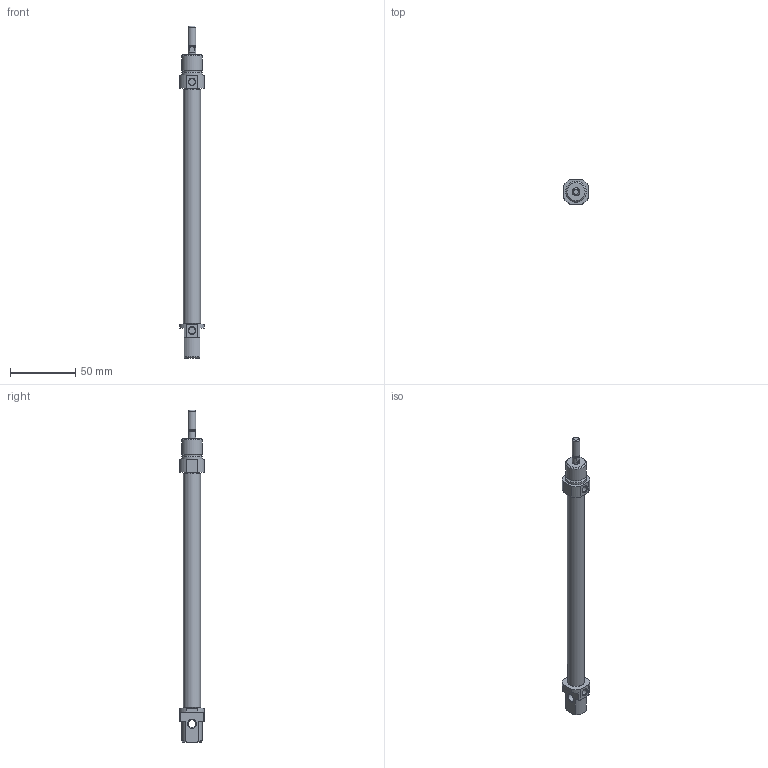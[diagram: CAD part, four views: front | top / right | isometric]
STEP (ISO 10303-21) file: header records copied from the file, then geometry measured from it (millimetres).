
FILE_DESCRIPTION((''),'2;1');
FILE_NAME('I:\3D電子目錄\氣缸\SDA\SDA12\SDA12\SDA12x150.stp','2007-08-06T10:28:02',('Administrator'),(''),'Autodesk Inventor 2008','Autodesk Inventor 2008','');
FILE_SCHEMA(('AUTOMOTIVE_DESIGN { 1 0 10303 214 1 1 1 1 }'));
Length unit declared in the file: millimetre
Products named in the file (1): SDA12X150
Bounding box: 19 x 19 x 255 mm (x, y, z)
Volume: 36308.4 mm3; surface area: 12232.7 mm2
Topology: 1 solids, 1 shells, 60 faces, 138 edges, 88 vertices
Faces by surface type: plane 26, cylinder 19, cone 12, bspline 2, torus 1
Full cylindrical faces by diameter (mm): 4.6 x1, 5 x2, 6 x3, 13.2 x1, 16 x2
Entity records: 1626 total; most frequent: CARTESIAN_POINT 289, DIRECTION 286, ORIENTED_EDGE 238, EDGE_CURVE 119, AXIS2_PLACEMENT_3D 116, EDGE_LOOP 88, VERTEX_POINT 87, FACE_OUTER_BOUND 60
